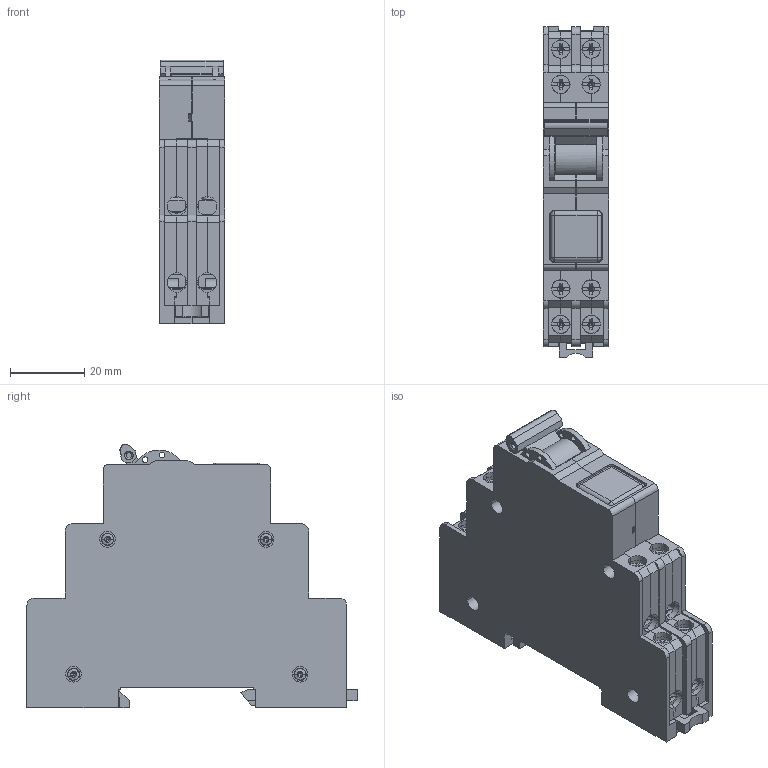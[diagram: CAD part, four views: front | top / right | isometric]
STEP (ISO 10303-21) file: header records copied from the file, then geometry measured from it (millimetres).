
FILE_DESCRIPTION (( 'STEP AP214' ), '1' );
FILE_NAME ('MSP - opraveno.step', '2016-10-14T10:37:32', ( '' ), ( '' ), 'SwSTEP 2.0', 'SolidWorks 2011', '' );
FILE_SCHEMA (( 'AUTOMOTIVE_DESIGN' ));
Length unit declared in the file: millimetre
Products named in the file (1): MSP - opraveno
Bounding box: 17.5 x 88.78 x 70.87 mm (x, y, z)
Volume: 33973 mm3; surface area: 50083.5 mm2
Topology: 35 solids, 35 shells, 2799 faces, 7582 edges, 4829 vertices
Faces by surface type: plane 1631, cylinder 805, bspline 255, cone 108
Entity records: 122649 total; most frequent: CARTESIAN_POINT 22008, ORIENTED_EDGE 15012, DIRECTION 13933, EDGE_CURVE 7506, LINE 4961, VECTOR 4961, VERTEX_POINT 4829, AXIS2_PLACEMENT_3D 4486
